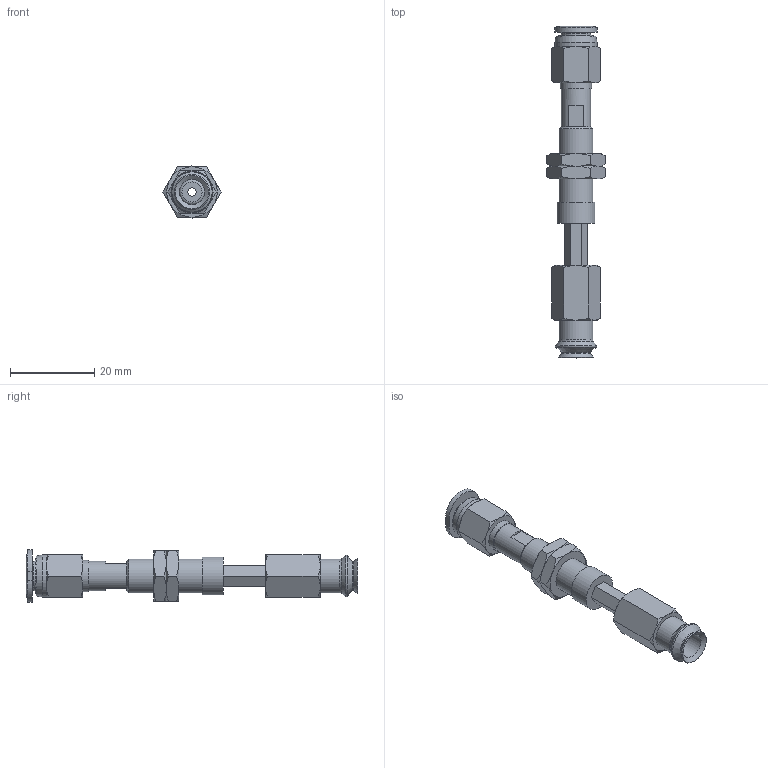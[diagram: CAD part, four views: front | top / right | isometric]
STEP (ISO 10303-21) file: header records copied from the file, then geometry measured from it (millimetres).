
FILE_DESCRIPTION(('STEP AP203'),'1');
FILE_NAME('-O.stp','2025-08-27T06:27:38',(' '),(' '),'Spatial InterOp 3D',' ',' ');
FILE_SCHEMA(('CONFIG_CONTROL_DESIGN'));
Length unit declared in the file: millimetre
Products named in the file (7): BNABPJTH-8-10-※-O; ADAPTER; NAPATH-10A-10--M; NAPJH-8-10-NUT; NAPJTH-8-10-FBODY; BPJG-8-※; PC-C_06-M5
Assembly tree (7 placements, depth 2):
  BNABPJTH-8-10-※-O
    ADAPTER
    NAPATH-10A-10--M
    NAPJH-8-10-NUT  x2
    NAPJTH-8-10-FBODY
    BPJG-8-※
    PC-C_06-M5
Bounding box: 13.86 x 78.98 x 12.4 mm (x, y, z)
Volume: 3452.9 mm3; surface area: 5222.2 mm2
Topology: 6 solids, 9 shells, 171 faces, 362 edges, 219 vertices
Faces by surface type: plane 68, cone 63, cylinder 22, torus 11, bspline 4, revolution 3
Full cylindrical faces by diameter (mm): 2 x2, 4 x4, 4.134 x1, 5 x1, 6 x2, 7 x2, 7.188 x2, 7.4 x1, 8 x2, 8.2 x1, 9 x1, 10 x1
Entity records: 4432 total; most frequent: CARTESIAN_POINT 1235, DIRECTION 587, ORIENTED_EDGE 516, EDGE_CURVE 260, AXIS2_PLACEMENT_3D 254, EDGE_LOOP 216, VERTEX_POINT 182, FACE_OUTER_BOUND 118
